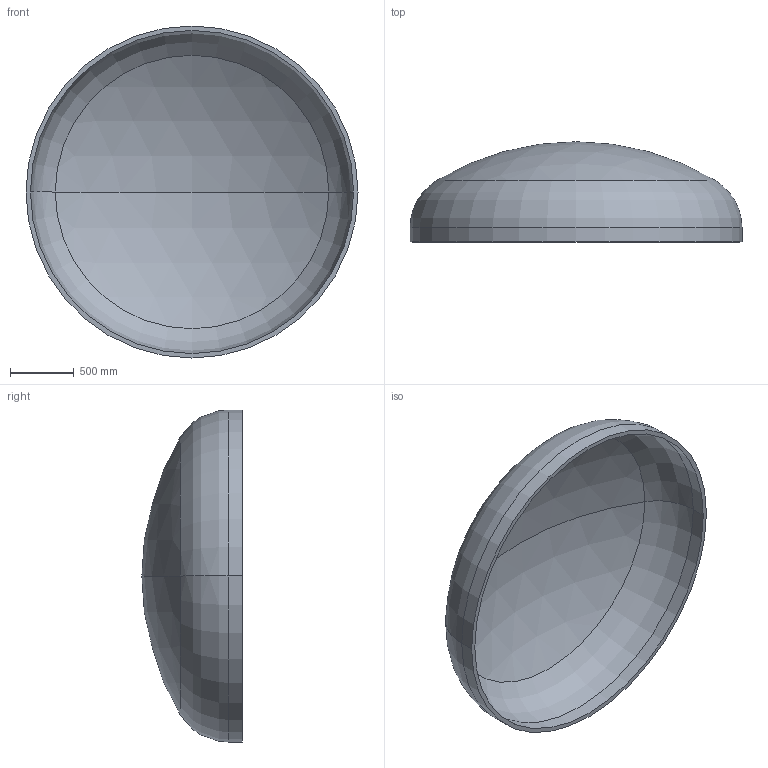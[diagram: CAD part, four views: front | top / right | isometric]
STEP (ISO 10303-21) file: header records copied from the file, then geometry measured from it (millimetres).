
FILE_DESCRIPTION (( 'STEP AP203' ), '1' );
FILE_NAME ('DIN 28013 Korbbogenform_-_Boden DIN 28013 - 2600 x 110 - I - s=35.step', '2016-07-01T16:07:35', ( '' ), ( '' ), 'SwSTEP 2.0', 'SolidWorks 2013', '' );
FILE_SCHEMA (( 'CONFIG_CONTROL_DESIGN' ));
Length unit declared in the file: millimetre
Products named in the file (1): DIN 28013 Korbbogenform_-_Boden DIN 28013 - 2600 x 110 - I - s=35
Bounding box: 2600 x 784.8 x 2600 mm (x, y, z)
Volume: 283801515.2 mm3; surface area: 16501825.9 mm2
Topology: 1 solids, 1 shells, 13 faces, 24 edges, 14 vertices
Faces by surface type: torus 4, cylinder 4, sphere 4, plane 1
Entity records: 407 total; most frequent: DIRECTION 72, CARTESIAN_POINT 52, ORIENTED_EDGE 48, AXIS2_PLACEMENT_3D 34, EDGE_CURVE 24, CIRCLE 20, EDGE_LOOP 14, VERTEX_POINT 14
